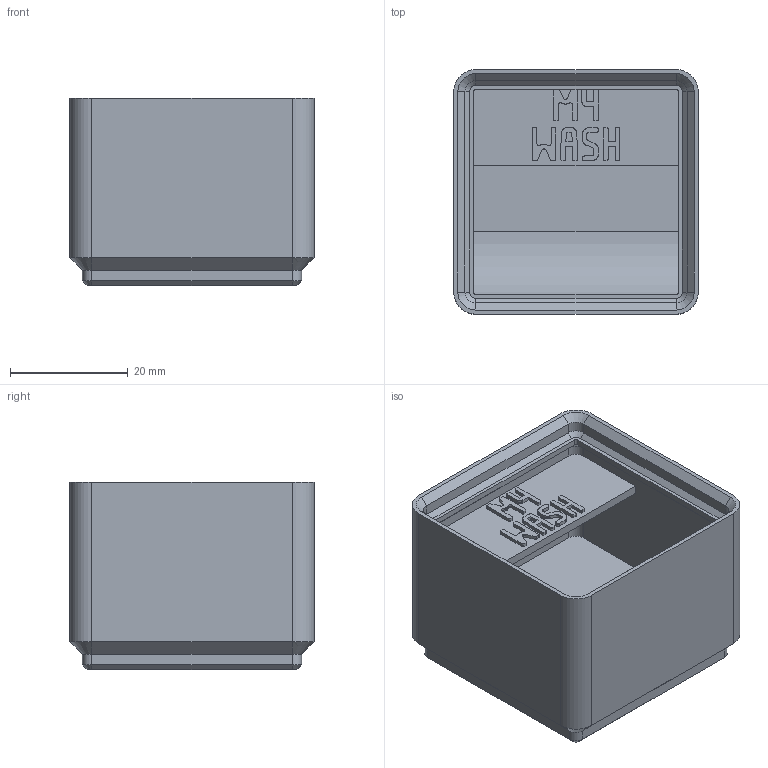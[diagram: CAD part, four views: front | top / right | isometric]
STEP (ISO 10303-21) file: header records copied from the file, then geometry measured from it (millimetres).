
FILE_DESCRIPTION(('Open CASCADE Model'),'2;1');
FILE_NAME('Open CASCADE Shape Model','2026-11-03T10:26:41',('Author'),( 'Open CASCADE'),'Open CASCADE STEP processor 8.0','build123d', 'Unknown');
FILE_SCHEMA(('AUTOMOTIVE_DESIGN { 1 0 10303 214 1 1 1 1 }'));
Length unit declared in the file: millimetre
Products named in the file (1): COMPOUND
Bounding box: 41.5 x 41.5 x 31.8 mm (x, y, z)
Volume: 24293.9 mm3; surface area: 12295.3 mm2
Topology: 1 solids, 1 shells, 733 faces, 2110 edges, 1388 vertices
Faces by surface type: plane 690, cylinder 23, cone 20
Entity records: 49789 total; most frequent: CARTESIAN_POINT 10305, DIRECTION 6362, LINE 4766, VECTOR 4766, ORIENTED_EDGE 4220, PCURVE 4220, DEFINITIONAL_REPRESENTATION 4220, EDGE_CURVE 2110
